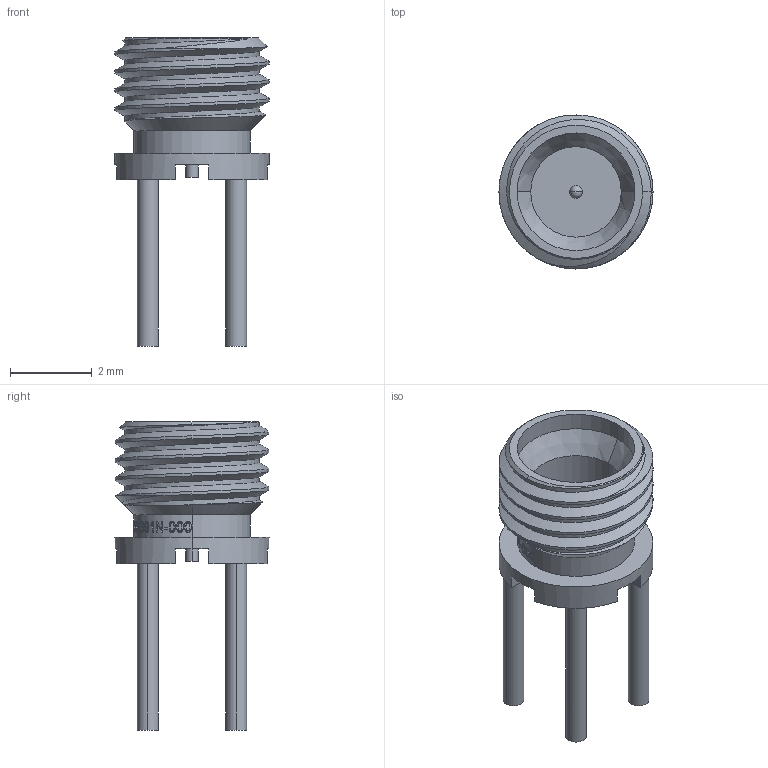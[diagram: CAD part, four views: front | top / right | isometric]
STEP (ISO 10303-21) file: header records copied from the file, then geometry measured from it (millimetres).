
FILE_DESCRIPTION (( 'STEP AP203' ), '1' );
FILE_NAME ('8868000G91N-000.STEP', '2022-12-21T21:31:06', ( '' ), ( '' ), 'SwSTEP 2.0', 'SolidWorks 2022', '' );
FILE_SCHEMA (( 'CONFIG_CONTROL_DESIGN' ));
Length unit declared in the file: inch
Products named in the file (1): 8868000G91N-000
Bounding box: 3.76 x 3.76 x 7.52 mm (x, y, z)
Volume: 22.6 mm3; surface area: 118.5 mm2
Topology: 1 solids, 1 shells, 327 faces, 840 edges, 557 vertices
Faces by surface type: bspline 171, plane 80, cylinder 68, cone 6, sphere 2
Entity records: 13660 total; most frequent: CARTESIAN_POINT 7122, ORIENTED_EDGE 1672, EDGE_CURVE 836, DIRECTION 732, VERTEX_POINT 555, B_SPLINE_CURVE_WITH_KNOTS 526, EDGE_LOOP 371, FACE_OUTER_BOUND 327
